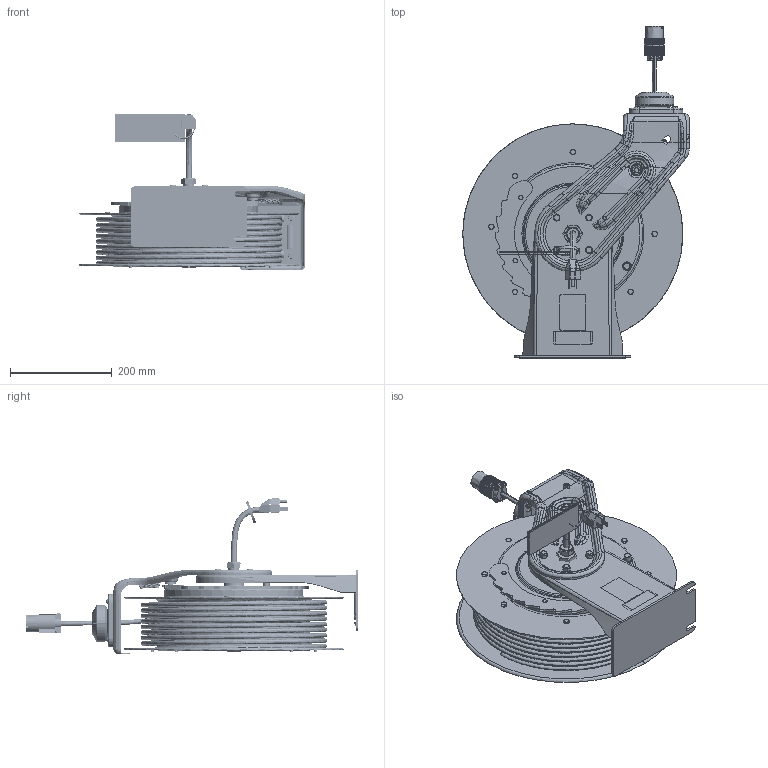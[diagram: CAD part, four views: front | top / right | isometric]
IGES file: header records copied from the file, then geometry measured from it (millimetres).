
Start section:  PTC IGES file: 24y879-en-e.igs
Global section: file name: 24y879-en-e.igs; native system: Creo Parametric by PTC Inc.; preprocessor: 2021072; author: qufmd1; organization: Unknown; date: 20220621.142240; units: inch
Bounding box: 445.5 x 653.28 x 308.39 mm (x, y, z)
Surface area: 2127884.1 mm2 (no closed solid volume)
Topology: 0 solids, 0 shells, 1333 faces, 6569 edges, 6559 vertices
Faces by surface type: revolution 714, bspline 617, extrusion 2
